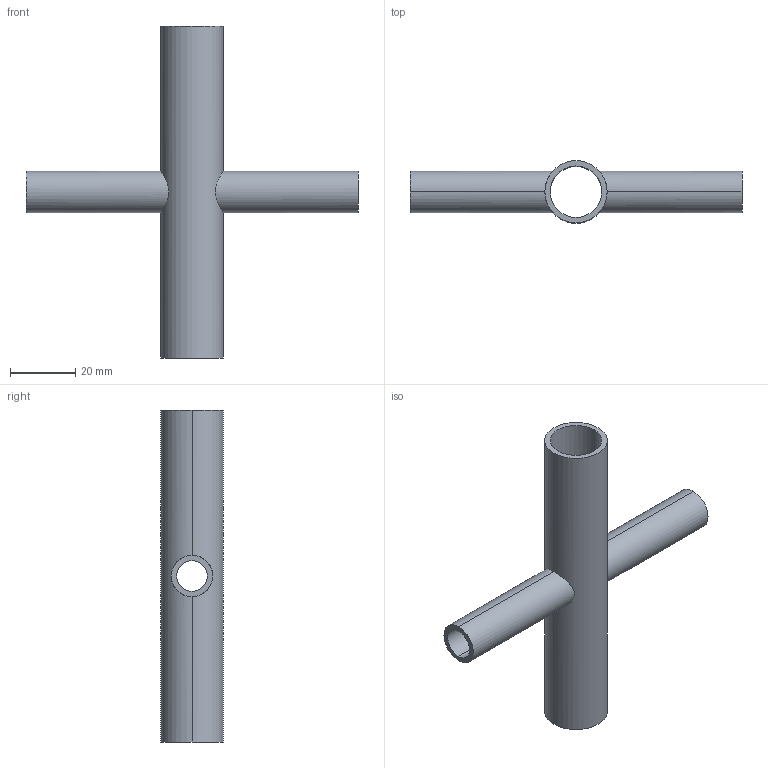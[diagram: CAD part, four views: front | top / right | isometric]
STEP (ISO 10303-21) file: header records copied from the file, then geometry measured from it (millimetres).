
FILE_DESCRIPTION (( 'STEP AP214' ), '1' );
FILE_NAME ('TE9RWWWW6L.75x.5-...STEP', '2016-05-22T04:06:51', ( 'eran' ), ( '' ), 'SwSTEP 2.0', 'SolidWorks 2016', '' );
FILE_SCHEMA (( 'AUTOMOTIVE_DESIGN' ));
Length unit declared in the file: millimetre
Products named in the file (1): TE9RWWWW6L.75x.5-..
Bounding box: 101.6 x 19.05 x 101.6 mm (x, y, z)
Volume: 13762.3 mm3; surface area: 16951.9 mm2
Topology: 1 solids, 1 shells, 16 faces, 40 edges, 24 vertices
Faces by surface type: cylinder 12, plane 4
Entity records: 814 total; most frequent: CARTESIAN_POINT 389, DIRECTION 82, ORIENTED_EDGE 80, EDGE_CURVE 40, AXIS2_PLACEMENT_3D 33, VERTEX_POINT 24, EDGE_LOOP 20, LINE 16
